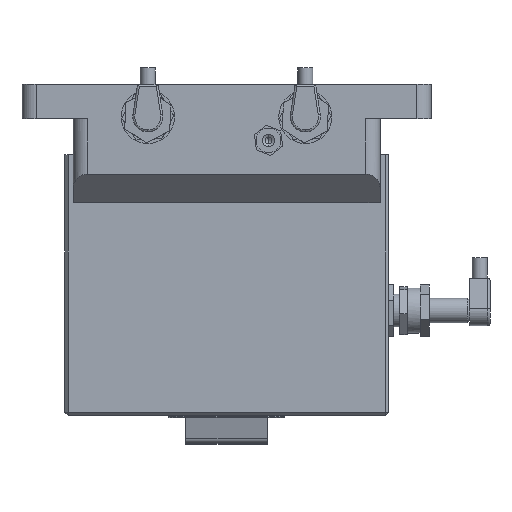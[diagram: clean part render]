
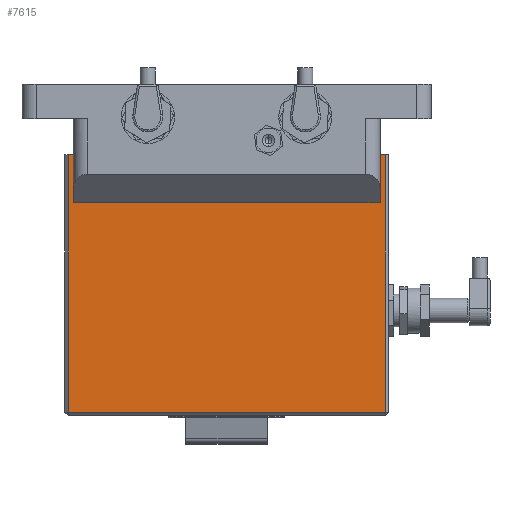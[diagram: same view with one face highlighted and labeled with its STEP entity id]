
A CAD part, front view. The second image highlights one B-rep face of the part: STEP entity #7615.
In plain terms, the highlighted planar face has unit normal (0, -1, 0).
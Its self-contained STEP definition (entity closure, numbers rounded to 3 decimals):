
#20 = EDGE_LOOP ( 'NONE', ( #6215, #6216, #6217, #6212, #6208, #6213, #6209, #6214 ) ) ;
#2368 = CARTESIAN_POINT ( 'NONE',  ( 79., -31., -153.5 ) ) ;
#2375 = PLANE ( 'NONE',  #10500 ) ;
#2376 = DIRECTION ( 'NONE',  ( -1., 0., 0. ) ) ;
#2377 = DIRECTION ( 'NONE',  ( 0., 1., 0. ) ) ;
#2587 = CARTESIAN_POINT ( 'NONE',  ( 77.5, -31., -152. ) ) ;
#2590 = CARTESIAN_POINT ( 'NONE',  ( -77.5, -31., -152. ) ) ;
#2625 = CARTESIAN_POINT ( 'NONE',  ( 77.5, -31., -26. ) ) ;
#3810 = CARTESIAN_POINT ( 'NONE',  ( 75., -31., -26. ) ) ;
#4382 = LINE ( 'NONE', #9137, #4394 ) ;
#4394 = VECTOR ( 'NONE', #9152, 1000. ) ;
#4407 = LINE ( 'NONE', #9151, #4422 ) ;
#4419 = LINE ( 'NONE', #9270, #4458 ) ;
#4422 = VECTOR ( 'NONE', #9351, 1000. ) ;
#4458 = VECTOR ( 'NONE', #4643, 1000. ) ;
#4552 = CARTESIAN_POINT ( 'NONE',  ( 75., -31., -26.5 ) ) ;
#4643 = DIRECTION ( 'NONE',  ( -1., 0., 0. ) ) ;
#4770 = CARTESIAN_POINT ( 'NONE',  ( -75., -31., -26. ) ) ;
#4772 = CARTESIAN_POINT ( 'NONE',  ( -75., -31., -26.5 ) ) ;
#4792 = CARTESIAN_POINT ( 'NONE',  ( -77.5, -31., -26. ) ) ;
#5442 = EDGE_CURVE ( 'NONE', #7412, #7527, #10405, .T. ) ;
#5443 = EDGE_CURVE ( 'NONE', #7574, #7542, #10404, .T. ) ;
#5444 = EDGE_CURVE ( 'NONE', #7527, #7574, #10409, .T. ) ;
#5449 = EDGE_CURVE ( 'NONE', #7542, #9733, #10419, .T. ) ;
#5452 = EDGE_CURVE ( 'NONE', #7417, #7412, #10425, .T. ) ;
#5745 = EDGE_CURVE ( 'NONE', #7438, #7417, #4382, .T. ) ;
#5759 = EDGE_CURVE ( 'NONE', #9733, #7455, #4407, .T. ) ;
#5777 = EDGE_CURVE ( 'NONE', #7455, #7438, #4419, .T. ) ;
#6208 = ORIENTED_EDGE ( 'NONE', *, *, #5777, .T. ) ;
#6209 = ORIENTED_EDGE ( 'NONE', *, *, #5452, .T. ) ;
#6212 = ORIENTED_EDGE ( 'NONE', *, *, #5759, .T. ) ;
#6213 = ORIENTED_EDGE ( 'NONE', *, *, #5745, .T. ) ;
#6214 = ORIENTED_EDGE ( 'NONE', *, *, #5442, .T. ) ;
#6215 = ORIENTED_EDGE ( 'NONE', *, *, #5444, .T. ) ;
#6216 = ORIENTED_EDGE ( 'NONE', *, *, #5443, .T. ) ;
#6217 = ORIENTED_EDGE ( 'NONE', *, *, #5449, .T. ) ;
#6489 = DIRECTION ( 'NONE',  ( -1., 0., 0. ) ) ;
#6490 = CARTESIAN_POINT ( 'NONE',  ( 79., -31., -26. ) ) ;
#6494 = DIRECTION ( 'NONE',  ( -1., 0., 0. ) ) ;
#6496 = CARTESIAN_POINT ( 'NONE',  ( 79., -31., -26. ) ) ;
#6503 = DIRECTION ( 'NONE',  ( 1., 0., 0. ) ) ;
#6505 = CARTESIAN_POINT ( 'NONE',  ( 79., -31., -152. ) ) ;
#6506 = DIRECTION ( 'NONE',  ( 0., 0., 1. ) ) ;
#6508 = CARTESIAN_POINT ( 'NONE',  ( -77.5, -31., -153.5 ) ) ;
#6509 = DIRECTION ( 'NONE',  ( 0., 0., -1. ) ) ;
#6513 = CARTESIAN_POINT ( 'NONE',  ( 77.5, -31., -153.5 ) ) ;
#7412 = VERTEX_POINT ( 'NONE', #4792 ) ;
#7417 = VERTEX_POINT ( 'NONE', #4770 ) ;
#7438 = VERTEX_POINT ( 'NONE', #4772 ) ;
#7455 = VERTEX_POINT ( 'NONE', #4552 ) ;
#7527 = VERTEX_POINT ( 'NONE', #2590 ) ;
#7542 = VERTEX_POINT ( 'NONE', #2625 ) ;
#7574 = VERTEX_POINT ( 'NONE', #2587 ) ;
#7615 = ADVANCED_FACE ( 'NONE', ( #11016 ), #2375, .F. ) ;
#9137 = CARTESIAN_POINT ( 'NONE',  ( -75., -31., -49.5 ) ) ;
#9151 = CARTESIAN_POINT ( 'NONE',  ( 75., -31., -49.5 ) ) ;
#9152 = DIRECTION ( 'NONE',  ( 0., 0., 1. ) ) ;
#9270 = CARTESIAN_POINT ( 'NONE',  ( -150., -31., -26.5 ) ) ;
#9351 = DIRECTION ( 'NONE',  ( 0., 0., -1. ) ) ;
#9733 = VERTEX_POINT ( 'NONE', #3810 ) ;
#10404 = LINE ( 'NONE', #6513, #10410 ) ;
#10405 = LINE ( 'NONE', #6508, #10408 ) ;
#10408 = VECTOR ( 'NONE', #6509, 1000. ) ;
#10409 = LINE ( 'NONE', #6505, #10412 ) ;
#10410 = VECTOR ( 'NONE', #6506, 1000. ) ;
#10412 = VECTOR ( 'NONE', #6503, 1000. ) ;
#10419 = LINE ( 'NONE', #6496, #10422 ) ;
#10422 = VECTOR ( 'NONE', #6494, 1000. ) ;
#10425 = LINE ( 'NONE', #6490, #10428 ) ;
#10428 = VECTOR ( 'NONE', #6489, 1000. ) ;
#10500 = AXIS2_PLACEMENT_3D ( 'NONE', #2368, #2377, #2376 ) ;
#11016 = FACE_OUTER_BOUND ( 'NONE', #20, .T. ) ;
